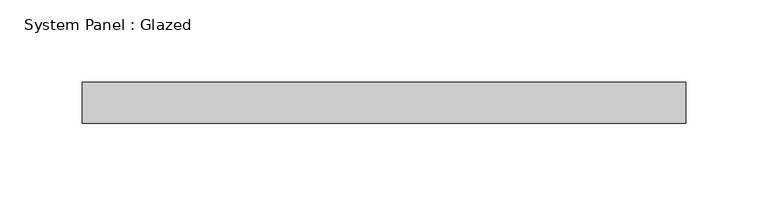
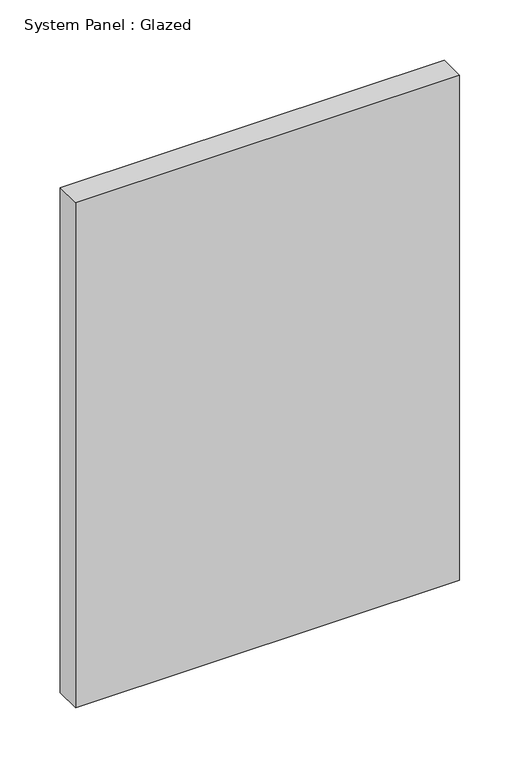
"""IFC4 building model written with IfcOpenShell, lengths in millimetres: plate geometry, System Panel : Glazed."""

from ifc_helpers import new_model, si_unit, origin, origin_with_axes, place, context, project, spatial, polyline, outline, extrude, source, transform, mapped, element, save


def system_panel_glazed_cc472106(model_context):
    return source(origin(), model_context, "Body", "SweptSolid", [
        extrude(outline(polyline([(183.5786901, -12.5), (-183.5786901, -12.5), (-183.5786901, 12.5), (183.5786901, 12.5), (183.5786901, -12.5)])), origin_with_axes(), (0.0, 0.0, 1.0), 510.0),
    ])


if __name__ == "__main__":
    model = new_model("IFC4")
    model_context = context("Model", 3, world=origin())
    ifc_project = project(units=[si_unit("LENGTHUNIT", "METRE", prefix="MILLI")], contexts=[model_context])
    site = spatial("IfcSite", under=ifc_project)
    building = spatial("IfcBuilding", under=site)
    placement = place(None, origin())
    system_panel_glazed_shape = system_panel_glazed_cc472106(model_context)
    element("IfcPlate", 1, ObjectType="System Panel : Glazed", at=placement, inside=building, context=model_context, shape_type="MappedRepresentation", body=[
        mapped(system_panel_glazed_shape, transform((0.0, 0.0, 0.0), x_axis=(1.0, 0.0, 0.0), y_axis=(0.0, 1.0, 0.0), z_axis=(0.0, 0.0, 1.0))),
    ])
    save(model, "model.ifc")
